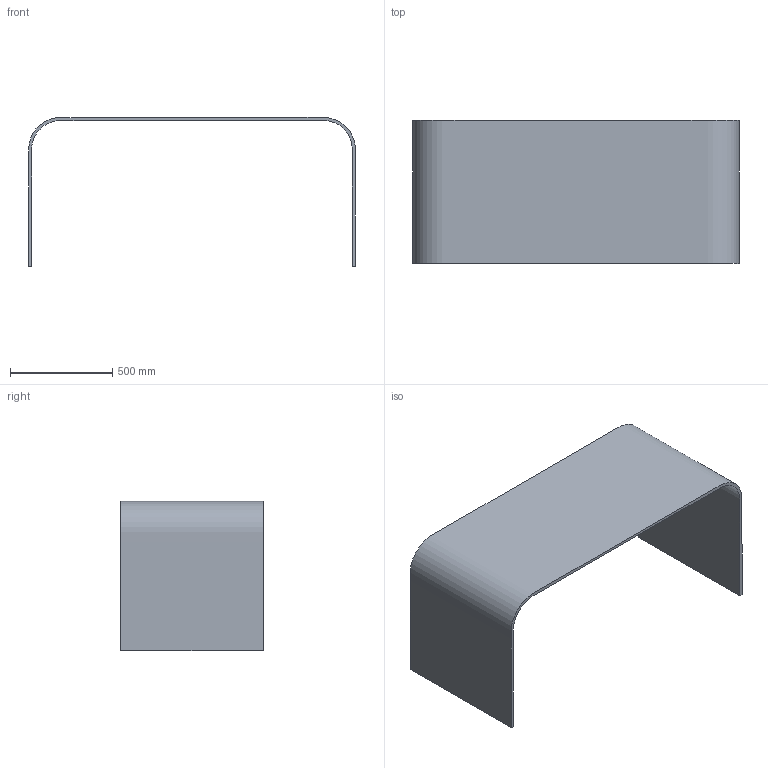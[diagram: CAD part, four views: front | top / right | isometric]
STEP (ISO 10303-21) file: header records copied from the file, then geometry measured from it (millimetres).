
FILE_DESCRIPTION(/* description */ (''),/* implementation_level */ '2;1');
FILE_NAME(/* name */ '1330 - Foglio 160x70',/* time_stamp */ '2010-11-03T11:58:06+01:00',/* author */ (''),/* organization */ (''),/* preprocessor_version */ 'ST-DEVELOPER v10',/* originating_system */ '',/* authorisation */ '');
FILE_SCHEMA (('CONFIG_CONTROL_DESIGN'));
Length unit declared in the file: centimetre
Products named in the file (1): 1
Bounding box: 1600 x 700 x 730 mm (x, y, z)
Volume: 25873825.5 mm3; surface area: 4167772 mm2
Topology: 1 solids, 1 shells, 6 faces, 12 edges, 8 vertices
Faces by surface type: plane 4, bspline 2
Entity records: 292 total; most frequent: CARTESIAN_POINT 118, ORIENTED_EDGE 24, EDGE_CURVE 12, VERTEX_POINT 8, B_SPLINE_CURVE_WITH_KNOTS 8, DIRECTION 8, ORGANIZATION 7, PERSON_AND_ORGANIZATION 7
